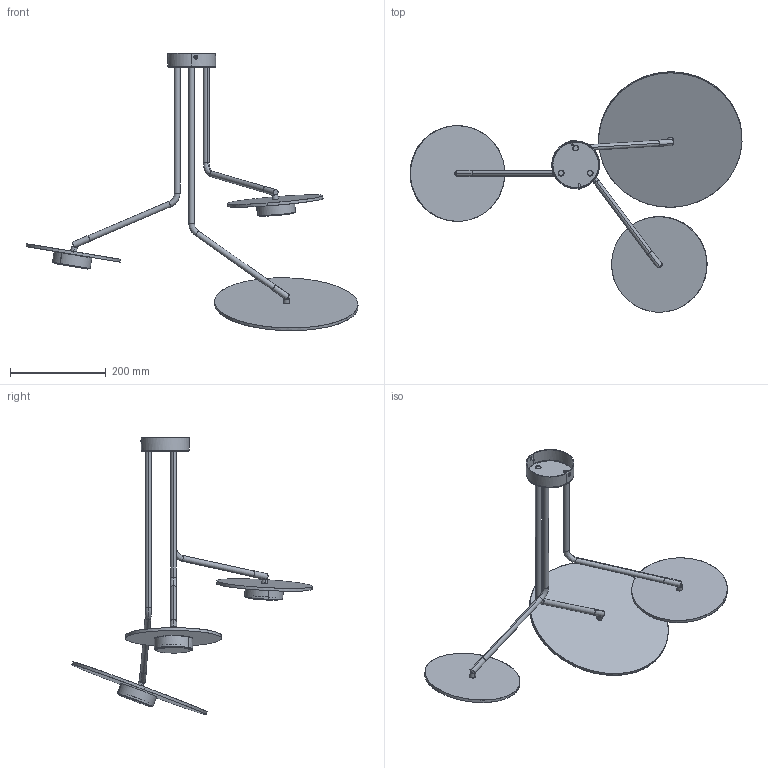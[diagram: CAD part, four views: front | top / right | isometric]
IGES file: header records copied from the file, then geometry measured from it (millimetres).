
Start section: SolidWorks IGES file using NURBS representation for surfaces
Global section: file name: Z:\Modele 3D_WWW\_KOLEKCJE_WWW\DISK\DISK-III-7644\DISK-III-7644.IGS; native system: SolidWorks 2021; preprocessor: SolidWorks 2021; author: gabriela.tworek; date: 211115.132037; units: millimetre
Bounding box: 694.77 x 503.23 x 580.43 mm (x, y, z)
Surface area: 470302.8 mm2 (no closed solid volume)
Topology: 0 solids, 0 shells, 168 faces, 3748 edges, 3748 vertices
Faces by surface type: bspline 168
